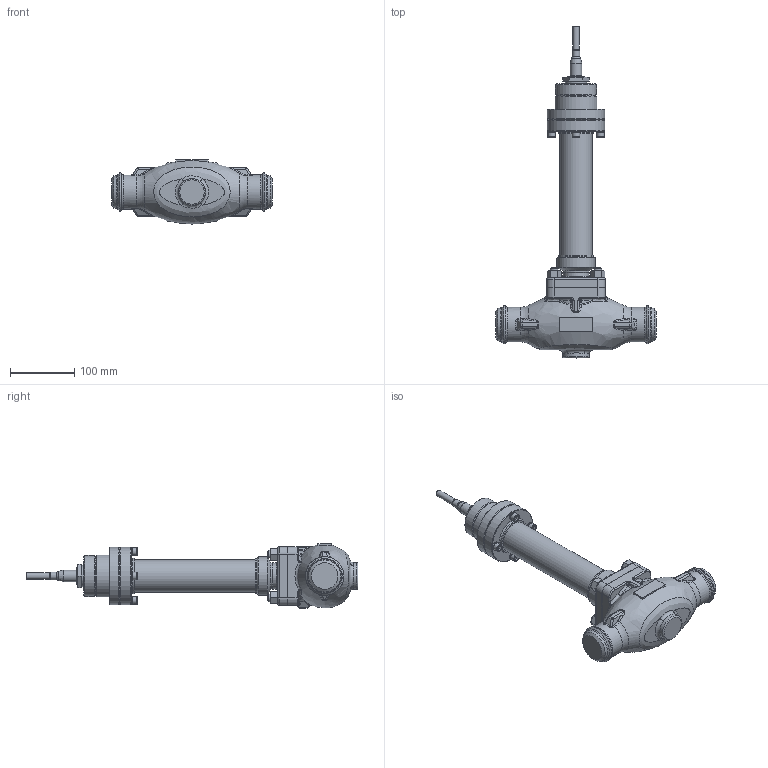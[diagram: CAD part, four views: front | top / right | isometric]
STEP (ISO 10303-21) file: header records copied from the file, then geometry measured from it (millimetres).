
FILE_DESCRIPTION(/* description */ (''),/* implementation_level */ '2;1');
FILE_NAME(/* name */ 'CV3xx_NPS_1_1_2_privarovaci_vlnovec.stp',/* time_stamp */ '2015-08-11T10:10:08+02:00',/* author */ (''),/* organization */ (''),/* preprocessor_version */ 'ST-DEVELOPER v15',/* originating_system */ 'SIEMENS PLM Software NX 8.5',/* authorisation */ '');
FILE_SCHEMA (('AP203_CONFIGURATION_CONTROLLED_3D_DESIGN_OF_MECHANICAL_PARTS_AND_ASSEMBLIES_MIM_LF { 1 0 10303 403 2 1 2}'));
Length unit declared in the file: millimetre
Products named in the file (1): adam1354300Cul94
Bounding box: 251 x 518 x 100 mm (x, y, z)
Volume: 2235604.9 mm3; surface area: 182601.9 mm2
Topology: 1 solids, 1 shells, 553 faces, 1287 edges, 761 vertices
Faces by surface type: plane 168, cylinder 140, bspline 92, cone 91, torus 46, sphere 16
Full cylindrical faces by diameter (mm): 7 x4, 7.76 x4, 9 x4, 10 x1, 11.64 x4, 12 x9, 14 x4, 18 x1, 19 x8, 27 x1, 33 x1, 41 x1, 42 x2, 50 x1, 50.3 x2, 54 x2, 55 x2, 58 x1, 60 x3, 61.6 x1, 64 x1, 65 x1, 76 x1, 90 x2
Entity records: 16746 total; most frequent: CARTESIAN_POINT 5554, DIRECTION 2279, ORIENTED_EDGE 2180, EDGE_CURVE 1090, AXIS2_PLACEMENT_3D 994, EDGE_LOOP 732, VERTEX_POINT 694, ADVANCED_FACE 553
